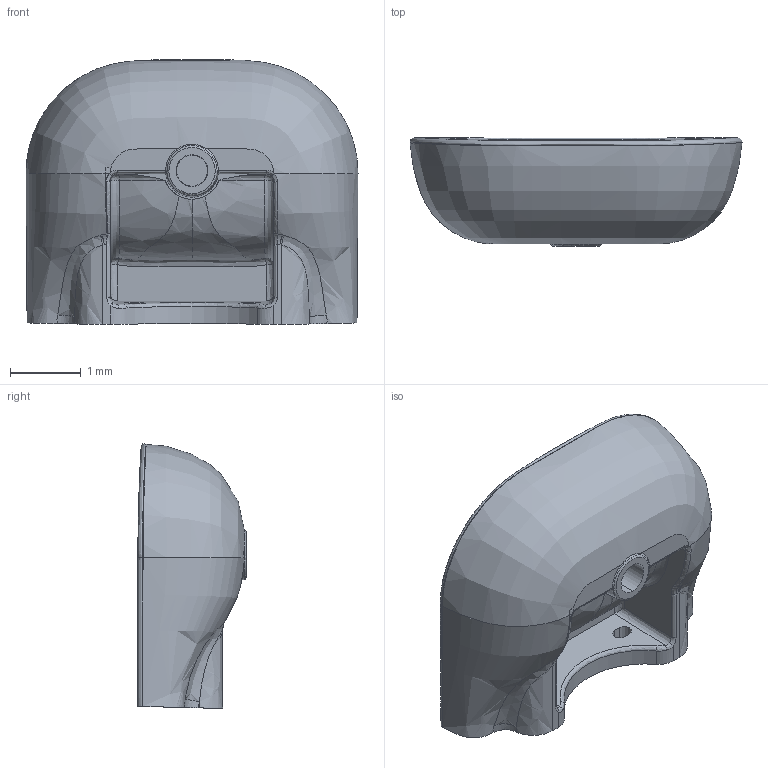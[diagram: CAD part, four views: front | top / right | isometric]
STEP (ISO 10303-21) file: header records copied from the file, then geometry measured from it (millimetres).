
FILE_DESCRIPTION(/* description */ (''),/* implementation_level */ '2;1');
FILE_NAME(/* name */ 'NULS0473700',/* time_stamp */ '2018-12-13T15:17:47+01:00',/* author */ (''),/* organization */ (''),/* preprocessor_version */ 'ST-DEVELOPER v15',/* originating_system */ '',/* authorisation */ '');
FILE_SCHEMA (('AUTOMOTIVE_DESIGN'));
Length unit declared in the file: centimetre
Products named in the file (1): Document
Bounding box: 4.69 x 1.53 x 3.75 mm (x, y, z)
Surface area: 58.1 mm2 (no closed solid volume)
Topology: 0 solids, 3 shells, 114 faces, 322 edges, 185 vertices
Faces by surface type: bspline 93, plane 21
Entity records: 25137 total; most frequent: CARTESIAN_POINT 23430, ORIENTED_EDGE 597, EDGE_CURVE 321, VERTEX_POINT 185, B_SPLINE_CURVE_WITH_KNOTS 152, EDGE_LOOP 118, ADVANCED_FACE 113, FACE_OUTER_BOUND 113
